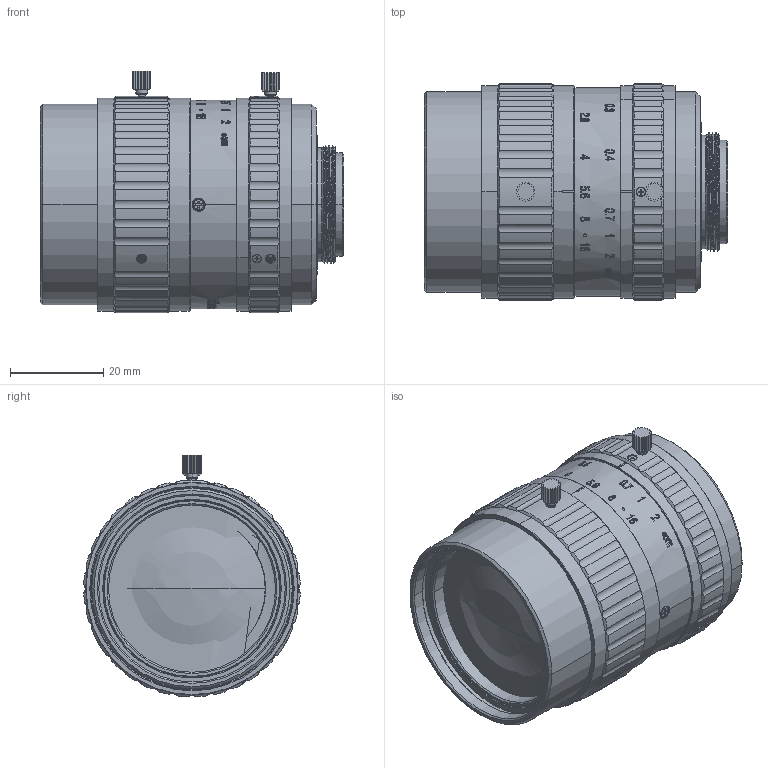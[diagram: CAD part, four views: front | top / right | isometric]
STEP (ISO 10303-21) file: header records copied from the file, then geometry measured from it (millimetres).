
FILE_DESCRIPTION((''),'2;1');
FILE_NAME('FA5015A-200_ASM_ASM','2021-02-27T',('Administrator'),(''),'PRO/ENGINEER BY PARAMETRIC TECHNOLOGY CORPORATION, 2010370','PRO/ENGINEER BY PARAMETRIC TECHNOLOGY CORPORATION, 2010370','');
FILE_SCHEMA(('CONFIG_CONTROL_DESIGN'));
Length unit declared in the file: millimetre
Products named in the file (22): MSBR-64; MSBR-63; MSBR-62; MSBR-60; MSBR-59; MSBR-58; MSBR-51; MSBR-50; MSBR-49; MSBR-48; MSBR-47; MSBR-46; MSBR-44; MSBR-14; MSBR-13; MSBR-7; MSBR-6; MSBR-5; MSBR-4; MSBR-2; MSBR-1; FA5015A-200_ASM_ASM
Assembly tree (21 placements, depth 2):
  FA5015A-200_ASM_ASM
    MSBR-64
    MSBR-63
    MSBR-62
    MSBR-60
    MSBR-59
    MSBR-58
    MSBR-51
    MSBR-50
    MSBR-49
    MSBR-48
    MSBR-47
    MSBR-46
    MSBR-44
    MSBR-14
    MSBR-13
    MSBR-7
    MSBR-6
    MSBR-5
    MSBR-4
    MSBR-2
    MSBR-1
Bounding box: 64.97 x 46.37 x 51.78 mm (x, y, z)
Volume: 34988.1 mm3; surface area: 41380.6 mm2
Topology: 19 solids, 19 shells, 1795 faces, 4965 edges, 3295 vertices
Faces by surface type: bspline 564, cylinder 549, plane 418, cone 204, torus 30, extrusion 22, sphere 8
Entity records: 101018 total; most frequent: CARTESIAN_POINT 59008, ORIENTED_EDGE 9914, DIRECTION 6668, EDGE_CURVE 4957, VERTEX_POINT 3295, AXIS2_PLACEMENT_3D 2362, EDGE_LOOP 1956, B_SPLINE_CURVE_WITH_KNOTS 1947
